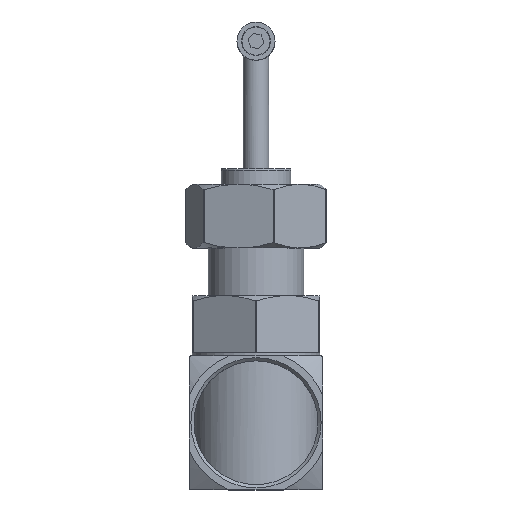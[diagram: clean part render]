
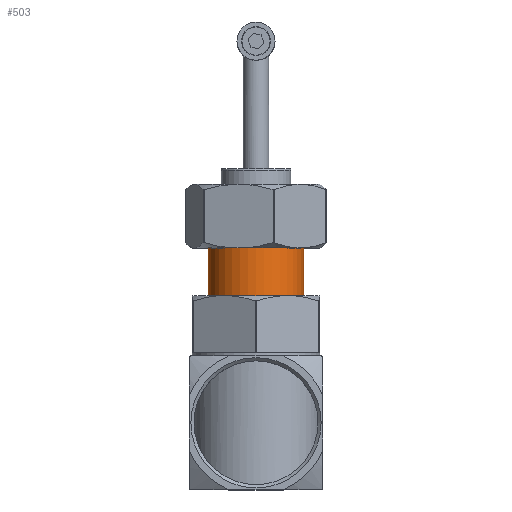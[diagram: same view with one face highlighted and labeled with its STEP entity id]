
A CAD part, top view. The second image highlights one B-rep face of the part: STEP entity #503.
In plain terms, the highlighted cylindrical face has radius 15 mm (diameter 30 mm), a full revolution.
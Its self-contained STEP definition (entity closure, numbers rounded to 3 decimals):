
#503=ADVANCED_FACE('',(#2162,#2164),#2166,.T.);
#2162=FACE_OUTER_BOUND('',#2163,.T.);
#2163=EDGE_LOOP('',(#4529));
#2164=FACE_OUTER_BOUND('',#2165,.T.);
#2165=EDGE_LOOP('',(#4530));
#2166=CYLINDRICAL_SURFACE('',#2167,15.);
#2167=AXIS2_PLACEMENT_3D('',#2168,#2169,#2170);
#2168=CARTESIAN_POINT('',(0.,40.,0.));
#2169=DIRECTION('',(0.,1.,0.));
#2170=DIRECTION('',(0.,0.,1.));
#4529=ORIENTED_EDGE('',*,*,#5413,.F.);
#4530=ORIENTED_EDGE('',*,*,#5414,.F.);
#5413=EDGE_CURVE('',#6035,#6035,#6036,.T.);
#5414=EDGE_CURVE('',#6037,#6037,#6038,.T.);
#6035=VERTEX_POINT('',#9824);
#6036=CIRCLE('',#9825,15.);
#6037=VERTEX_POINT('',#9829);
#6038=CIRCLE('',#9830,15.);
#9824=CARTESIAN_POINT('',(0.,55.,-15.));
#9825=AXIS2_PLACEMENT_3D('',#9826,#9827,#9828);
#9826=CARTESIAN_POINT('',(0.,55.,0.));
#9827=DIRECTION('',(0.,1.,0.));
#9828=DIRECTION('',(0.,0.,-1.));
#9829=CARTESIAN_POINT('',(0.,40.,-15.));
#9830=AXIS2_PLACEMENT_3D('',#9831,#9832,#9833);
#9831=CARTESIAN_POINT('',(0.,40.,0.));
#9832=DIRECTION('',(0.,-1.,0.));
#9833=DIRECTION('',(0.,0.,-1.));
